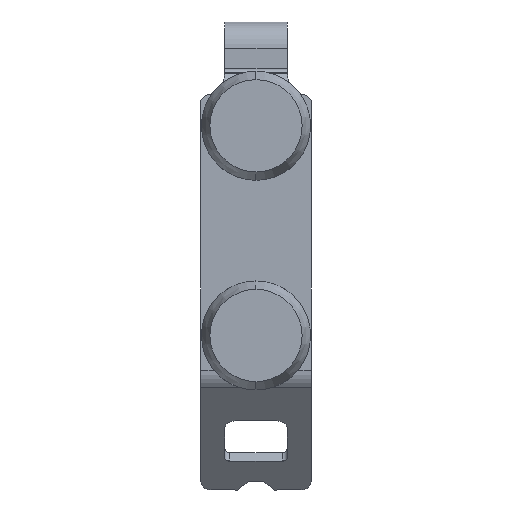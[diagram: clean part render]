
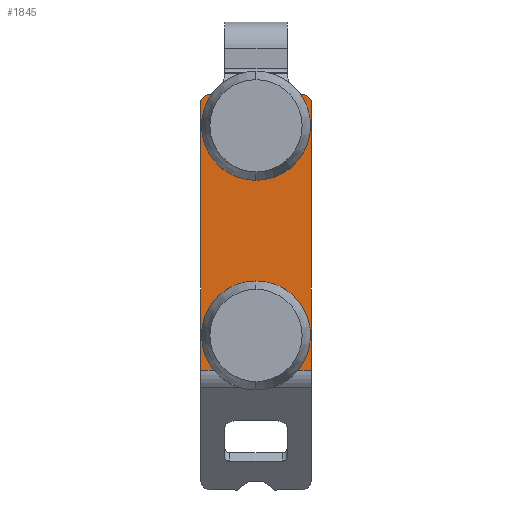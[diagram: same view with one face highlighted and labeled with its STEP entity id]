
A CAD part, front view. The second image highlights one B-rep face of the part: STEP entity #1845.
In plain terms, the highlighted planar face has unit normal (0, -1, 0).
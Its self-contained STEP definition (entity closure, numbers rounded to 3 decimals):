
#57 = DIRECTION ( 'NONE',  ( 0., 0., -1. ) ) ;
#58 = DIRECTION ( 'NONE',  ( 0., 1., 0. ) ) ;
#59 = CARTESIAN_POINT ( 'NONE',  ( -5.25, 0., 3.193 ) ) ;
#60 = PLANE ( 'NONE',  #2337 ) ;
#525 = EDGE_LOOP ( 'NONE', ( #2502, #2503, #2504, #2505, #2506, #2507, #2508, #2509, #2510, #2511, #2512, #2513 ) ) ;
#864 = CARTESIAN_POINT ( 'NONE',  ( 0., 0., -20. ) ) ;
#865 = DIRECTION ( 'NONE',  ( 0., -1., 0. ) ) ;
#866 = DIRECTION ( 'NONE',  ( 0., 0., -1. ) ) ;
#1093 = VERTEX_POINT ( 'NONE', #1964 ) ;
#1143 = VERTEX_POINT ( 'NONE', #2091 ) ;
#1150 = VERTEX_POINT ( 'NONE', #2084 ) ;
#1152 = VERTEX_POINT ( 'NONE', #2082 ) ;
#1155 = VERTEX_POINT ( 'NONE', #2079 ) ;
#1167 = VERTEX_POINT ( 'NONE', #2067 ) ;
#1190 = VERTEX_POINT ( 'NONE', #2044 ) ;
#1346 = CARTESIAN_POINT ( 'NONE',  ( 0., 0., -5.2 ) ) ;
#1354 = CARTESIAN_POINT ( 'NONE',  ( 5.25, 0., -23.318 ) ) ;
#1355 = CARTESIAN_POINT ( 'NONE',  ( -4.199, 0., 3.067 ) ) ;
#1384 = CARTESIAN_POINT ( 'NONE',  ( 4.004, 0., -23.318 ) ) ;
#1402 = CARTESIAN_POINT ( 'NONE',  ( 4.8, 0., 2.91 ) ) ;
#1410 = CARTESIAN_POINT ( 'NONE',  ( 0., 0., 0. ) ) ;
#1411 = DIRECTION ( 'NONE',  ( 0., -1., 0. ) ) ;
#1412 = DIRECTION ( 'NONE',  ( 0., 0., -1. ) ) ;
#1474 = CARTESIAN_POINT ( 'NONE',  ( -5.25, 0., -23.318 ) ) ;
#1475 = DIRECTION ( 'NONE',  ( 1., 0., 0. ) ) ;
#1476 = CARTESIAN_POINT ( 'NONE',  ( 5.25, 0., 3.193 ) ) ;
#1477 = DIRECTION ( 'NONE',  ( 0., 0., 1. ) ) ;
#1478 = CARTESIAN_POINT ( 'NONE',  ( 5.25, 0., 2.413 ) ) ;
#1479 = DIRECTION ( 'NONE',  ( 0.671, 0., -0.742 ) ) ;
#1480 = CARTESIAN_POINT ( 'NONE',  ( 5., 0., 4.9 ) ) ;
#1481 = DIRECTION ( 'NONE',  ( 0., -1., 0. ) ) ;
#1482 = DIRECTION ( 'NONE',  ( -1., 0., 0. ) ) ;
#1483 = CARTESIAN_POINT ( 'NONE',  ( 0., 0., 0. ) ) ;
#1484 = DIRECTION ( 'NONE',  ( 0., -1., 0. ) ) ;
#1485 = DIRECTION ( 'NONE',  ( 0., 0., -1. ) ) ;
#1486 = CARTESIAN_POINT ( 'NONE',  ( -5., 0., 4.9 ) ) ;
#1487 = DIRECTION ( 'NONE',  ( 0., 1., 0. ) ) ;
#1488 = DIRECTION ( 'NONE',  ( 1., 0., 0. ) ) ;
#1489 = CARTESIAN_POINT ( 'NONE',  ( -5.25, 0., 2.413 ) ) ;
#1490 = DIRECTION ( 'NONE',  ( -0.671, 0., -0.742 ) ) ;
#1491 = CARTESIAN_POINT ( 'NONE',  ( -5.25, 0., 3.193 ) ) ;
#1492 = DIRECTION ( 'NONE',  ( 0., 0., 1. ) ) ;
#1493 = CARTESIAN_POINT ( 'NONE',  ( -5.25, 0., -23.318 ) ) ;
#1494 = DIRECTION ( 'NONE',  ( 1., 0., 0. ) ) ;
#1495 = CARTESIAN_POINT ( 'NONE',  ( 0., 0., -20. ) ) ;
#1496 = DIRECTION ( 'NONE',  ( 0., -1., 0. ) ) ;
#1497 = DIRECTION ( 'NONE',  ( 0., 0., -1. ) ) ;
#1845 = ADVANCED_FACE ( 'NONE', ( #2562 ), #60, .F. ) ;
#1917 = VERTEX_POINT ( 'NONE', #1346 ) ;
#1927 = VERTEX_POINT ( 'NONE', #1354 ) ;
#1928 = VERTEX_POINT ( 'NONE', #1355 ) ;
#1964 = CARTESIAN_POINT ( 'NONE',  ( -5.25, 0., 2.413 ) ) ;
#1991 = VERTEX_POINT ( 'NONE', #1384 ) ;
#2012 = VERTEX_POINT ( 'NONE', #1402 ) ;
#2044 = CARTESIAN_POINT ( 'NONE',  ( 5.25, 0., 2.413 ) ) ;
#2067 = CARTESIAN_POINT ( 'NONE',  ( -4.8, 0., 2.91 ) ) ;
#2079 = CARTESIAN_POINT ( 'NONE',  ( -5.25, 0., -23.318 ) ) ;
#2082 = CARTESIAN_POINT ( 'NONE',  ( 4.199, 0., 3.067 ) ) ;
#2084 = CARTESIAN_POINT ( 'NONE',  ( -4.004, 0., -23.318 ) ) ;
#2091 = CARTESIAN_POINT ( 'NONE',  ( 0., 0., -14.8 ) ) ;
#2114 = EDGE_CURVE ( 'NONE', #1917, #1152, #2661, .T. ) ;
#2137 = EDGE_CURVE ( 'NONE', #1991, #1927, #2695, .T. ) ;
#2138 = EDGE_CURVE ( 'NONE', #1927, #1190, #2697, .T. ) ;
#2139 = EDGE_CURVE ( 'NONE', #2012, #1190, #2699, .T. ) ;
#2140 = EDGE_CURVE ( 'NONE', #1152, #2012, #2701, .T. ) ;
#2141 = EDGE_CURVE ( 'NONE', #1928, #1917, #2702, .T. ) ;
#2142 = EDGE_CURVE ( 'NONE', #1928, #1167, #2704, .T. ) ;
#2143 = EDGE_CURVE ( 'NONE', #1167, #1093, #2703, .T. ) ;
#2144 = EDGE_CURVE ( 'NONE', #1155, #1093, #2706, .T. ) ;
#2145 = EDGE_CURVE ( 'NONE', #1155, #1150, #2708, .T. ) ;
#2146 = EDGE_CURVE ( 'NONE', #1143, #1150, #2711, .T. ) ;
#2337 = AXIS2_PLACEMENT_3D ( 'NONE', #59, #58, #57 ) ;
#2397 = AXIS2_PLACEMENT_3D ( 'NONE', #1410, #1411, #1412 ) ;
#2438 = EDGE_CURVE ( 'NONE', #1991, #1143, #3040, .T. ) ;
#2502 = ORIENTED_EDGE ( 'NONE', *, *, #2438, .F. ) ;
#2503 = ORIENTED_EDGE ( 'NONE', *, *, #2137, .T. ) ;
#2504 = ORIENTED_EDGE ( 'NONE', *, *, #2138, .T. ) ;
#2505 = ORIENTED_EDGE ( 'NONE', *, *, #2139, .F. ) ;
#2506 = ORIENTED_EDGE ( 'NONE', *, *, #2140, .F. ) ;
#2507 = ORIENTED_EDGE ( 'NONE', *, *, #2114, .F. ) ;
#2508 = ORIENTED_EDGE ( 'NONE', *, *, #2141, .F. ) ;
#2509 = ORIENTED_EDGE ( 'NONE', *, *, #2142, .T. ) ;
#2510 = ORIENTED_EDGE ( 'NONE', *, *, #2143, .T. ) ;
#2511 = ORIENTED_EDGE ( 'NONE', *, *, #2144, .F. ) ;
#2512 = ORIENTED_EDGE ( 'NONE', *, *, #2145, .T. ) ;
#2513 = ORIENTED_EDGE ( 'NONE', *, *, #2146, .F. ) ;
#2562 = FACE_OUTER_BOUND ( 'NONE', #525, .T. ) ;
#2661 = CIRCLE ( 'NONE', #2397, 5.2 ) ;
#2695 = LINE ( 'NONE', #1474, #2696 ) ;
#2696 = VECTOR ( 'NONE', #1475, 1000. ) ;
#2697 = LINE ( 'NONE', #1476, #2698 ) ;
#2698 = VECTOR ( 'NONE', #1477, 1000. ) ;
#2699 = LINE ( 'NONE', #1478, #2700 ) ;
#2700 = VECTOR ( 'NONE', #1479, 1000. ) ;
#2701 = CIRCLE ( 'NONE', #3055, 2. ) ;
#2702 = CIRCLE ( 'NONE', #3056, 5.2 ) ;
#2703 = LINE ( 'NONE', #1489, #2705 ) ;
#2704 = CIRCLE ( 'NONE', #3057, 2. ) ;
#2705 = VECTOR ( 'NONE', #1490, 1000. ) ;
#2706 = LINE ( 'NONE', #1491, #2707 ) ;
#2707 = VECTOR ( 'NONE', #1492, 1000. ) ;
#2708 = LINE ( 'NONE', #1493, #2709 ) ;
#2709 = VECTOR ( 'NONE', #1494, 1000. ) ;
#2711 = CIRCLE ( 'NONE', #3058, 5.2 ) ;
#3040 = CIRCLE ( 'NONE', #3157, 5.2 ) ;
#3055 = AXIS2_PLACEMENT_3D ( 'NONE', #1480, #1481, #1482 ) ;
#3056 = AXIS2_PLACEMENT_3D ( 'NONE', #1483, #1484, #1485 ) ;
#3057 = AXIS2_PLACEMENT_3D ( 'NONE', #1486, #1487, #1488 ) ;
#3058 = AXIS2_PLACEMENT_3D ( 'NONE', #1495, #1496, #1497 ) ;
#3157 = AXIS2_PLACEMENT_3D ( 'NONE', #864, #865, #866 ) ;
